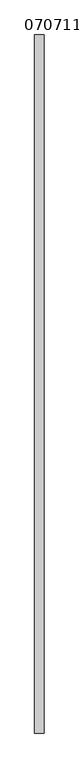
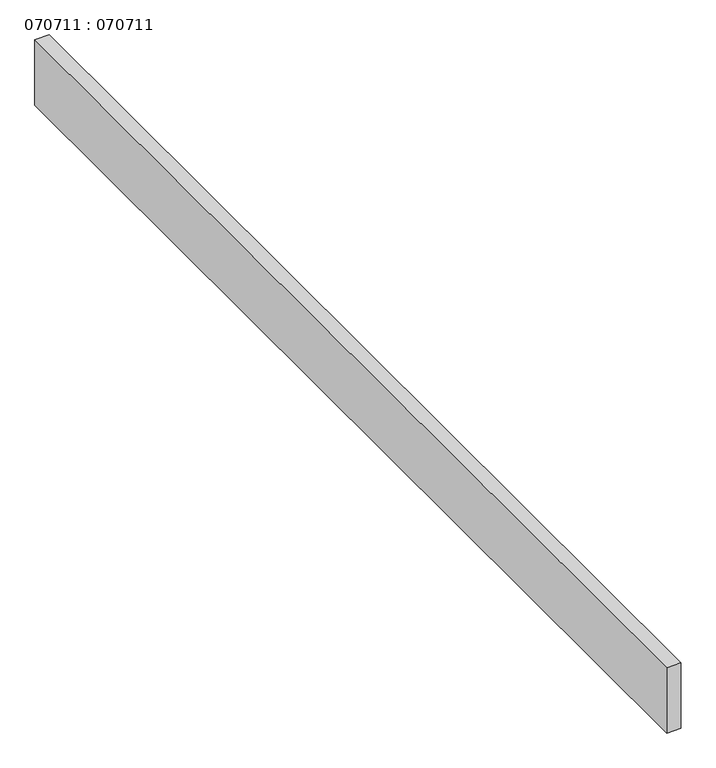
"""IFC4 building model written with IfcOpenShell, lengths in millimetres: proxy geometry, 070711 : 070711."""

import ifcopenshell
import ifcopenshell.guid

model = None  # the IFC model being written
_history = None  # IfcOwnerHistory: only IFC2X3 demands one
_inside = {}  # id of a spatial element -> (the spatial element, [elements in it])
_under = {}  # id of a project, library or spatial element -> (it, [spatial elements below it])
_declared = {}  # id of a project -> (the project, [libraries it declares])
_typed = {}  # id of a type object -> (the type object, [elements of that type])
_made_of = {}  # id of a material, layer set ... -> (it, [elements and type objects made of it])


def new_model(schema):
    """Start an empty IFC model of exactly this schema.

    Asked for "IFC4X3", IfcOpenShell would pick the latest addendum, in which some entities
    have other attributes; the version numbers below select the first issue.
    IFC2X3 requires an IfcOwnerHistory on every rooted entity: one is made here for all.
    """
    global model, _history
    if schema == "IFC4X3":
        model = ifcopenshell.file(schema_version=(4, 3, 0, 0))
    else:
        model = ifcopenshell.file(schema=schema)
    _inside.clear()
    _under.clear()
    _declared.clear()
    _typed.clear()
    _made_of.clear()
    _history = None
    if model.schema == "IFC2X3":
        org = make("IfcOrganization", Name="unknown")
        user = make(
            "IfcPersonAndOrganization",
            ThePerson=make("IfcPerson", FamilyName="unknown"),
            TheOrganization=org,
        )
        app = make(
            "IfcApplication",
            ApplicationDeveloper=org,
            Version="unknown",
            ApplicationFullName="unknown",
            ApplicationIdentifier="unknown",
        )
        _history = make(
            "IfcOwnerHistory",
            OwningUser=user,
            OwningApplication=app,
            ChangeAction="ADDED",
            CreationDate=0,
        )
    return model


def make(cls, **values):
    """One entity of the class cls with the attributes given. An attribute that is None is left unset."""
    return model.create_entity(
        cls, **{name: value for name, value in values.items() if value is not None}
    )


def rooted(cls, **values):
    """An entity with a GlobalId (a new one), such as an element, a storey or a relation."""
    return make(cls, GlobalId=ifcopenshell.guid.new(), OwnerHistory=_history, **values)


def si_unit(unit_type, name, prefix=None):
    """IfcSIUnit, for example si_unit("LENGTHUNIT", "METRE", prefix="MILLI")."""
    return make("IfcSIUnit", UnitType=unit_type, Prefix=prefix, Name=name)


def assignment(units):
    """IfcUnitAssignment: the units of a project."""
    return None if units is None else make("IfcUnitAssignment", Units=units)


def point(xyz):
    """IfcCartesianPoint."""
    return None if xyz is None else make("IfcCartesianPoint", Coordinates=xyz)


def direction(xyz):
    """IfcDirection."""
    return None if xyz is None else make("IfcDirection", DirectionRatios=xyz)


def frame(location, z_axis=None, x_axis=None):
    """IfcAxis2Placement3D, a coordinate frame: its origin and axes. An axis left out is left unset."""
    return make(
        "IfcAxis2Placement3D",
        Location=point(location),
        Axis=direction(z_axis),
        RefDirection=direction(x_axis),
    )


def origin():
    """The frame at (0, 0, 0) with its axes left unset."""
    return frame((0.0, 0.0, 0.0))


def origin_with_axes():
    """The frame at (0, 0, 0) with the z axis (0, 0, 1) and the x axis (1, 0, 0) written out."""
    return frame((0.0, 0.0, 0.0), z_axis=(0.0, 0.0, 1.0), x_axis=(1.0, 0.0, 0.0))


def place(relative_to, where):
    """IfcLocalPlacement: puts the frame where relative to a parent placement (None: the world)."""
    return make(
        "IfcLocalPlacement", PlacementRelTo=relative_to, RelativePlacement=where
    )


def context(
    kind, dimensions, precision=None, world=None, true_north=None, identifier=None
):
    """IfcGeometricRepresentationContext, for example the 3D "Model" context."""
    return make(
        "IfcGeometricRepresentationContext",
        ContextIdentifier=identifier,
        ContextType=kind,
        CoordinateSpaceDimension=dimensions,
        Precision=precision,
        WorldCoordinateSystem=world,
        TrueNorth=true_north,
    )


def project(units=None, contexts=None):
    """IfcProject with its units and contexts."""
    return rooted(
        "IfcProject",
        Name="project",
        RepresentationContexts=contexts,
        UnitsInContext=assignment(units),
    )


def spatial(cls, under=None, at=None, **own):
    """A site, building, storey or space (cls), placed at a placement, below another one or the project."""
    s = rooted(cls, ObjectPlacement=at, **own)
    if under is not None:
        _under.setdefault(under.id(), (under, []))[1].append(s)
    return s


def polyline(points):
    """IfcPolyline through the points."""
    return make("IfcPolyline", Points=[point(p) for p in points])


def outline(outer, holes=None, kind="AREA"):
    """IfcArbitraryClosedProfileDef: a profile drawn as a closed curve; with holes, ...WithVoids."""
    if holes is None:
        return make("IfcArbitraryClosedProfileDef", ProfileType=kind, OuterCurve=outer)
    return make(
        "IfcArbitraryProfileDefWithVoids",
        ProfileType=kind,
        OuterCurve=outer,
        InnerCurves=holes,
    )


def extrude(swept, where, along, depth):
    """IfcExtrudedAreaSolid: the profile swept, set in the frame where, extruded along a direction by depth."""
    return make(
        "IfcExtrudedAreaSolid",
        SweptArea=swept,
        Position=where,
        ExtrudedDirection=direction(along),
        Depth=depth,
    )


def shape(context_of_items, identifier, shape_type, items):
    """IfcShapeRepresentation: the items that make up one representation, for example the "Body"."""
    return make(
        "IfcShapeRepresentation",
        ContextOfItems=context_of_items,
        RepresentationIdentifier=identifier,
        RepresentationType=shape_type,
        Items=items,
    )


def source(mapping_origin, context_of_items, identifier, shape_type, items):
    """IfcRepresentationMap: a shape defined once, which mapped items show again and again."""
    return make(
        "IfcRepresentationMap",
        MappingOrigin=mapping_origin,
        MappedRepresentation=shape(context_of_items, identifier, shape_type, items),
    )


def transform(
    local_origin,
    x_axis=None,
    y_axis=None,
    z_axis=None,
    scale=None,
    scale2=None,
    scale3=None,
    uniform=True,
):
    """IfcCartesianTransformationOperator3D, or its non-uniform kind. x_axis, y_axis, z_axis: its Axis1, 2, 3."""
    if uniform:
        return make(
            "IfcCartesianTransformationOperator3D",
            Axis1=direction(x_axis),
            Axis2=direction(y_axis),
            LocalOrigin=point(local_origin),
            Scale=scale,
            Axis3=direction(z_axis),
        )
    return make(
        "IfcCartesianTransformationOperator3DnonUniform",
        Axis1=direction(x_axis),
        Axis2=direction(y_axis),
        LocalOrigin=point(local_origin),
        Scale=scale,
        Axis3=direction(z_axis),
        Scale2=scale2,
        Scale3=scale3,
    )


def mapped(mapping_source, mapping_target):
    """IfcMappedItem: shows the shape of a source again, moved by a transform."""
    return make(
        "IfcMappedItem", MappingSource=mapping_source, MappingTarget=mapping_target
    )


def made_of(thing, what):
    """Note that an element or type object is made of a material, layer set ...; save() writes the relation."""
    if what is not None:
        _made_of.setdefault(what.id(), (what, []))[1].append(thing)
    return thing


def element(
    cls,
    number,
    at=None,
    inside=None,
    cuts=None,
    type_object=None,
    material=None,
    context=None,
    identifier="Body",
    shape_type=None,
    held_by="IfcProductDefinitionShape",
    body=None,
    shapes=None,
    **own,
):
    """One element of the class cls, such as IfcWall. Its Tag is "e" and its number.

    at: its placement. inside: the storey or other place that contains it. cuts: it is an
    opening in that element (IfcRelVoidsElement). A single representation is given by context,
    identifier, shape_type and body (its items); several are given by shapes. held_by: the class
    of the entity that holds the representations. save() writes the other relations.
    """
    e = rooted(cls, Tag="e%d" % number, ObjectPlacement=at, **own)
    if body is not None:
        shapes = [shape(context, identifier, shape_type, body)]
    if shapes is not None:
        e.Representation = make(held_by, Representations=shapes)
    if inside is not None:
        _inside.setdefault(inside.id(), (inside, []))[1].append(e)
    if cuts is not None:
        rooted(
            "IfcRelVoidsElement", RelatingBuildingElement=cuts, RelatedOpeningElement=e
        )
    if type_object is not None:
        _typed.setdefault(type_object.id(), (type_object, []))[1].append(e)
    return made_of(e, material)


def aggregate(whole, parts):
    """IfcRelAggregates: a whole, such as a stair, and the parts it consists of."""
    return rooted("IfcRelAggregates", RelatingObject=whole, RelatedObjects=parts)


def save(model, path):
    """Write the relations noted so far, then the file.

    IfcRelAggregates (storeys below a building ...), IfcRelContainedInSpatialStructure (elements
    in a storey), IfcRelDefinesByType, IfcRelAssociatesMaterial and IfcRelDeclares: one each for
    every whole, place, type object, material and project.
    """
    for whole, parts in _under.values():
        aggregate(whole, parts)
    for where, things in _inside.values():
        rooted(
            "IfcRelContainedInSpatialStructure",
            RelatedElements=things,
            RelatingStructure=where,
        )
    for kind, things in _typed.values():
        rooted("IfcRelDefinesByType", RelatedObjects=things, RelatingType=kind)
    for what, things in _made_of.values():
        rooted("IfcRelAssociatesMaterial", RelatedObjects=things, RelatingMaterial=what)
    for by, libraries in _declared.values():
        rooted("IfcRelDeclares", RelatingContext=by, RelatedDefinitions=libraries)
    model.write(path)


def proxy_070711_070711_45b70f32(model_context):
    return source(origin(), model_context, "Body", "SweptSolid", [
        extrude(outline(polyline([(25.0, 1900.0), (25.0, 0.0), (0.0, 0.0), (0.0, 1900.0), (25.0, 1900.0)])), origin_with_axes(), (0.0, 0.0, 1.0), 120.0),
    ])


if __name__ == "__main__":
    model = new_model("IFC4")
    model_context = context("Model", 3, world=origin())
    ifc_project = project(units=[si_unit("LENGTHUNIT", "METRE", prefix="MILLI")], contexts=[model_context])
    site = spatial("IfcSite", under=ifc_project)
    building = spatial("IfcBuilding", under=site)
    placement = place(None, origin())
    proxy_070711_070711_shape = proxy_070711_070711_45b70f32(model_context)
    element("IfcBuildingElementProxy", 1, Name="070711 : 070711", ObjectType="070711 : 070711", at=placement, inside=building, context=model_context, shape_type="MappedRepresentation", body=[
        mapped(proxy_070711_070711_shape, transform((0.0, 0.0, 0.0), x_axis=(1.0, 0.0, 0.0), y_axis=(0.0, 1.0, 0.0), z_axis=(0.0, 0.0, 1.0))),
    ])
    save(model, "model.ifc")
